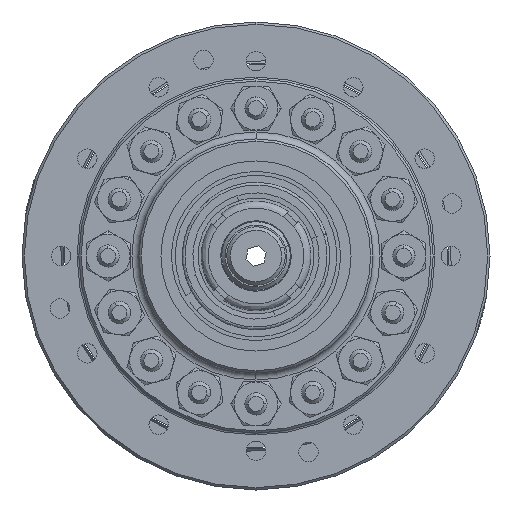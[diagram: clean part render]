
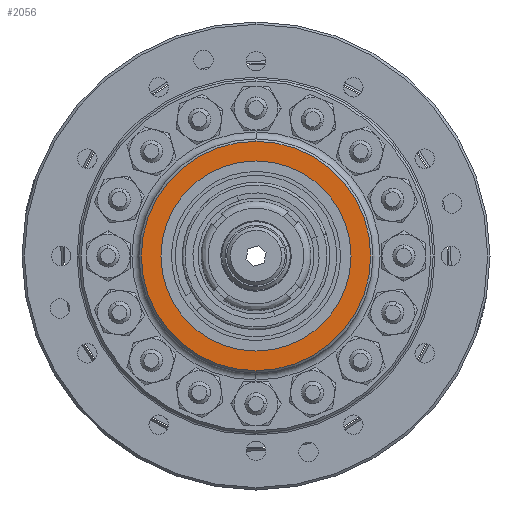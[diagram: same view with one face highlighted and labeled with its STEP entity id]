
A CAD part, left-side view. The second image highlights one B-rep face of the part: STEP entity #2056.
In plain terms, the highlighted planar face has unit normal (-1, 0, 0).
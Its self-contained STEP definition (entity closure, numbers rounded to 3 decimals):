
#325 = AXIS2_PLACEMENT_3D ( 'NONE', #4636, #37906, #32267 ) ;
#745 = FACE_BOUND ( 'NONE', #48029, .T. ) ;
#2056 = ADVANCED_FACE ( 'NONE', ( #745, #34024 ), #48061, .F. ) ;
#2235 = CIRCLE ( 'NONE', #37722, 20.637 ) ;
#2536 = VERTEX_POINT ( 'NONE', #39598 ) ;
#4636 = CARTESIAN_POINT ( 'NONE',  ( 0., 24.892, 0. ) ) ;
#4947 = DIRECTION ( 'NONE',  ( -1., 0., 0. ) ) ;
#5047 = ORIENTED_EDGE ( 'NONE', *, *, #10005, .T. ) ;
#7650 = CARTESIAN_POINT ( 'NONE',  ( 0., 0., 0. ) ) ;
#9036 = DIRECTION ( 'NONE',  ( 0., 0., 1. ) ) ;
#10005 = EDGE_CURVE ( 'NONE', #50750, #13286, #22710, .T. ) ;
#10410 = ORIENTED_EDGE ( 'NONE', *, *, #16492, .F. ) ;
#12503 = CARTESIAN_POINT ( 'NONE',  ( 0., 0., 0. ) ) ;
#13286 = VERTEX_POINT ( 'NONE', #32295 ) ;
#16492 = EDGE_CURVE ( 'NONE', #50752, #2536, #2235, .T. ) ;
#19073 = DIRECTION ( 'NONE',  ( -1., 0., 0. ) ) ;
#19519 = DIRECTION ( 'NONE',  ( 0., 0., 1. ) ) ;
#19531 = CIRCLE ( 'NONE', #26174, 24.892 ) ;
#20003 = CARTESIAN_POINT ( 'NONE',  ( 0., 0., -20.637 ) ) ;
#22582 = EDGE_CURVE ( 'NONE', #2536, #50752, #39136, .T. ) ;
#22710 = CIRCLE ( 'NONE', #47530, 24.892 ) ;
#23382 = DIRECTION ( 'NONE',  ( -1., 0., 0. ) ) ;
#26174 = AXIS2_PLACEMENT_3D ( 'NONE', #12503, #47753, #28312 ) ;
#27153 = DIRECTION ( 'NONE',  ( 0., 0., 1. ) ) ;
#28178 = CARTESIAN_POINT ( 'NONE',  ( 0., 0., 0. ) ) ;
#28312 = DIRECTION ( 'NONE',  ( 0., 0., 1. ) ) ;
#29827 = ORIENTED_EDGE ( 'NONE', *, *, #30497, .T. ) ;
#30497 = EDGE_CURVE ( 'NONE', #13286, #50750, #19531, .T. ) ;
#32267 = DIRECTION ( 'NONE',  ( 0., 0., -1. ) ) ;
#32295 = CARTESIAN_POINT ( 'NONE',  ( 0., 0., -24.892 ) ) ;
#34024 = FACE_OUTER_BOUND ( 'NONE', #42615, .T. ) ;
#35679 = CARTESIAN_POINT ( 'NONE',  ( 0., 0., 0. ) ) ;
#37722 = AXIS2_PLACEMENT_3D ( 'NONE', #28178, #4947, #9036 ) ;
#37906 = DIRECTION ( 'NONE',  ( 1., 0., 0. ) ) ;
#39136 = CIRCLE ( 'NONE', #48241, 20.637 ) ;
#39598 = CARTESIAN_POINT ( 'NONE',  ( 0., 0., 20.637 ) ) ;
#42615 = EDGE_LOOP ( 'NONE', ( #29827, #5047 ) ) ;
#43377 = CARTESIAN_POINT ( 'NONE',  ( 0., 0., 24.892 ) ) ;
#47530 = AXIS2_PLACEMENT_3D ( 'NONE', #7650, #23382, #19519 ) ;
#47753 = DIRECTION ( 'NONE',  ( -1., 0., 0. ) ) ;
#48029 = EDGE_LOOP ( 'NONE', ( #49610, #10410 ) ) ;
#48061 = PLANE ( 'NONE',  #325 ) ;
#48241 = AXIS2_PLACEMENT_3D ( 'NONE', #35679, #19073, #27153 ) ;
#49610 = ORIENTED_EDGE ( 'NONE', *, *, #22582, .F. ) ;
#50750 = VERTEX_POINT ( 'NONE', #43377 ) ;
#50752 = VERTEX_POINT ( 'NONE', #20003 ) ;
